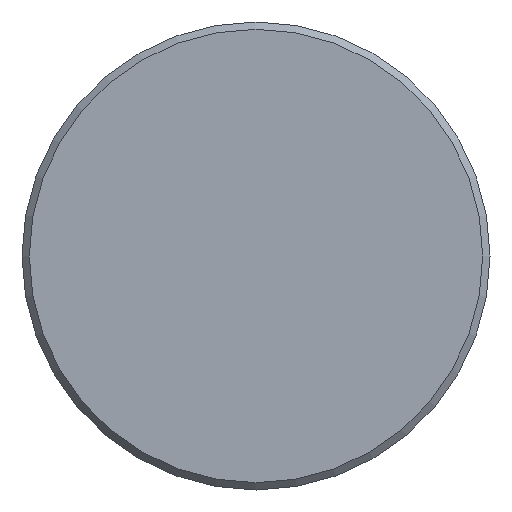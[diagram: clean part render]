
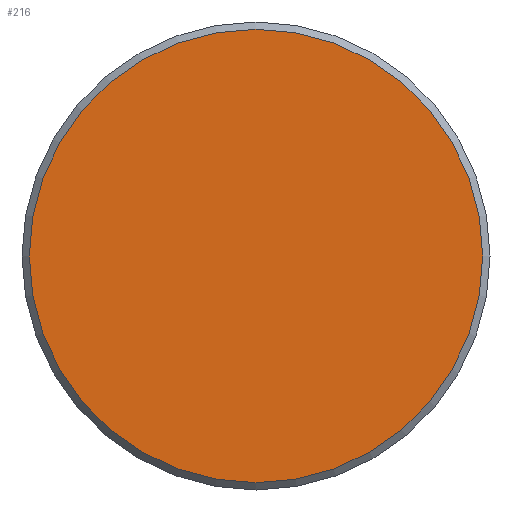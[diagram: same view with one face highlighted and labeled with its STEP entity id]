
A CAD part, front view. The second image highlights one B-rep face of the part: STEP entity #216.
In plain terms, the highlighted planar face has unit normal (0, -1, 0).
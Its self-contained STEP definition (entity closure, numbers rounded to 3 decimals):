
#216 = ADVANCED_FACE( '', ( #416 ), #417, .F. );
#416 = FACE_OUTER_BOUND( '', #612, .T. );
#417 = PLANE( '', #613 );
#612 = EDGE_LOOP( '', ( #966 ) );
#613 = AXIS2_PLACEMENT_3D( '', #967, #968, #969 );
#966 = ORIENTED_EDGE( '', *, *, #1213, .T. );
#967 = CARTESIAN_POINT( '', ( 15.5, 0., 0. ) );
#968 = DIRECTION( '', ( 0., 1., 0. ) );
#969 = DIRECTION( '', ( 0., 0., 1. ) );
#1213 = EDGE_CURVE( '', #1424, #1424, #1425, .T. );
#1424 = VERTEX_POINT( '', #1887 );
#1425 = CIRCLE( '', #1888, 15.5 );
#1887 = CARTESIAN_POINT( '', ( 0., 0., -15.5 ) );
#1888 = AXIS2_PLACEMENT_3D( '', #2053, #2054, #2055 );
#2053 = CARTESIAN_POINT( '', ( 0., 0., 0. ) );
#2054 = DIRECTION( '', ( 0., -1., 0. ) );
#2055 = DIRECTION( '', ( 0., 0., -1. ) );
